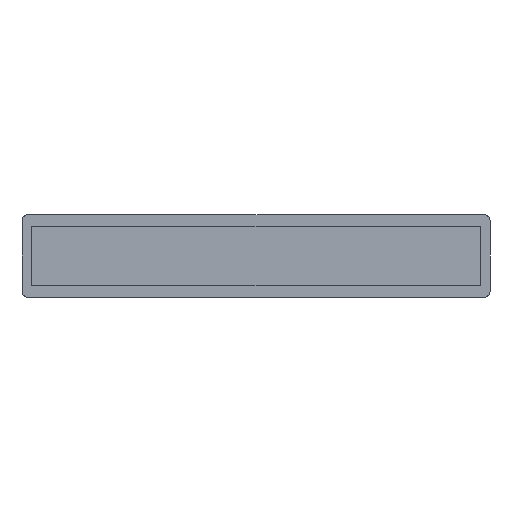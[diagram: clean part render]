
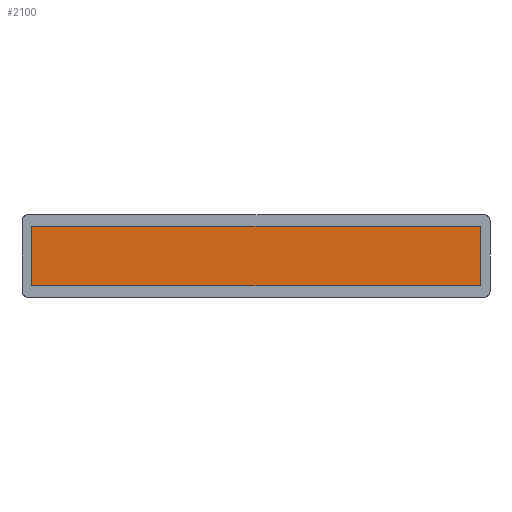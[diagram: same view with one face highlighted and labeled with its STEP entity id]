
A CAD part, front view. The second image highlights one B-rep face of the part: STEP entity #2100.
In plain terms, the highlighted planar face has unit normal (0, -1, 0).
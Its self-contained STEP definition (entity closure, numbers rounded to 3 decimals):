
#308 = CARTESIAN_POINT ( 'NONE',  ( 1139.5, -416.5, -150. ) ) ;
#1200 = ORIENTED_EDGE ( 'NONE', *, *, #5166, .T. ) ;
#1753 = ORIENTED_EDGE ( 'NONE', *, *, #8975, .T. ) ;
#2100 = ADVANCED_FACE ( 'NONE', ( #16170 ), #7869, .T. ) ;
#2238 = CARTESIAN_POINT ( 'NONE',  ( -1139.5, -416.5, 150. ) ) ;
#3323 = AXIS2_PLACEMENT_3D ( 'NONE', #9647, #6496, #12321 ) ;
#3583 = LINE ( 'NONE', #7459, #16572 ) ;
#4571 = ORIENTED_EDGE ( 'NONE', *, *, #6475, .T. ) ;
#5166 = EDGE_CURVE ( 'NONE', #11034, #7791, #12373, .T. ) ;
#6475 = EDGE_CURVE ( 'NONE', #12994, #16913, #3583, .T. ) ;
#6496 = DIRECTION ( 'NONE',  ( 0., -1., 0. ) ) ;
#6989 = LINE ( 'NONE', #9485, #13614 ) ;
#7459 = CARTESIAN_POINT ( 'NONE',  ( -1139.5, -416.5, -150. ) ) ;
#7791 = VERTEX_POINT ( 'NONE', #10491 ) ;
#7869 = PLANE ( 'NONE',  #3323 ) ;
#8138 = DIRECTION ( 'NONE',  ( 1., 0., 0. ) ) ;
#8975 = EDGE_CURVE ( 'NONE', #16913, #11034, #10960, .T. ) ;
#9284 = CARTESIAN_POINT ( 'NONE',  ( -1139.5, -416.5, -150. ) ) ;
#9485 = CARTESIAN_POINT ( 'NONE',  ( 1139.5, -416.5, 150. ) ) ;
#9620 = CARTESIAN_POINT ( 'NONE',  ( 1139.5, -416.5, -150. ) ) ;
#9647 = CARTESIAN_POINT ( 'NONE',  ( 0., -416.5, 0. ) ) ;
#10269 = VECTOR ( 'NONE', #10840, 1000. ) ;
#10491 = CARTESIAN_POINT ( 'NONE',  ( 1139.5, -416.5, 150. ) ) ;
#10840 = DIRECTION ( 'NONE',  ( 0., 0., 1. ) ) ;
#10960 = LINE ( 'NONE', #308, #11194 ) ;
#11034 = VERTEX_POINT ( 'NONE', #11565 ) ;
#11194 = VECTOR ( 'NONE', #8138, 1000. ) ;
#11565 = CARTESIAN_POINT ( 'NONE',  ( 1139.5, -416.5, -150. ) ) ;
#12321 = DIRECTION ( 'NONE',  ( 0., 0., -1. ) ) ;
#12341 = ORIENTED_EDGE ( 'NONE', *, *, #16622, .T. ) ;
#12373 = LINE ( 'NONE', #9620, #10269 ) ;
#12873 = DIRECTION ( 'NONE',  ( 0., 0., -1. ) ) ;
#12994 = VERTEX_POINT ( 'NONE', #2238 ) ;
#13614 = VECTOR ( 'NONE', #16093, 1000. ) ;
#16093 = DIRECTION ( 'NONE',  ( -1., 0., 0. ) ) ;
#16170 = FACE_OUTER_BOUND ( 'NONE', #16848, .T. ) ;
#16572 = VECTOR ( 'NONE', #12873, 1000. ) ;
#16622 = EDGE_CURVE ( 'NONE', #7791, #12994, #6989, .T. ) ;
#16848 = EDGE_LOOP ( 'NONE', ( #4571, #1753, #1200, #12341 ) ) ;
#16913 = VERTEX_POINT ( 'NONE', #9284 ) ;
